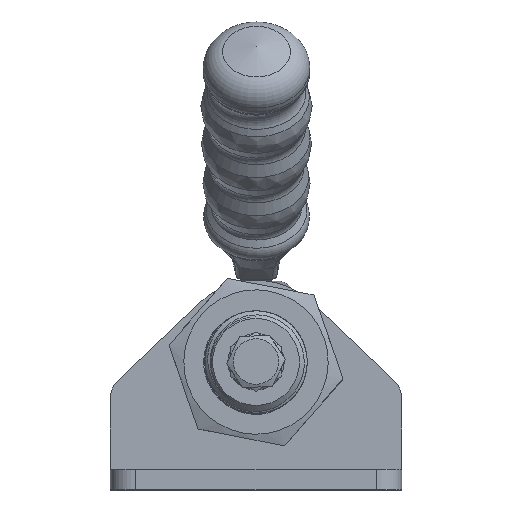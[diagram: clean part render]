
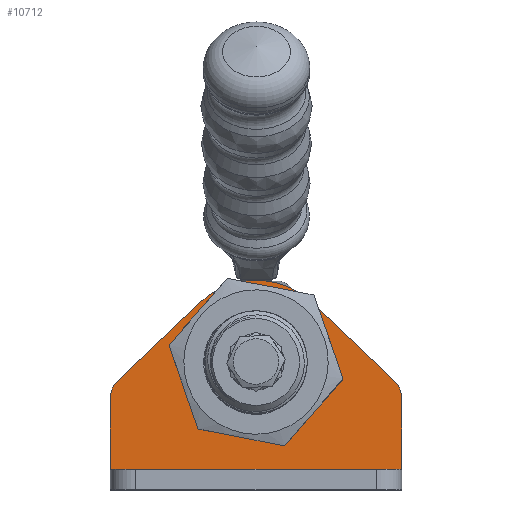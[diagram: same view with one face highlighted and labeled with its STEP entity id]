
A CAD part, top view. The second image highlights one B-rep face of the part: STEP entity #10712.
In plain terms, the highlighted planar face has unit normal (0, 0, 1).
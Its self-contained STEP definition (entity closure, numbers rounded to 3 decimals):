
#418=FACE_BOUND('',#1437,.T.);
#475=PLANE('',#11611);
#810=FACE_OUTER_BOUND('',#1436,.T.);
#1436=EDGE_LOOP('',(#8000,#8001,#8002,#8003,#8004,#8005,#8006,#8007));
#1437=EDGE_LOOP('',(#8008,#8009));
#2040=CIRCLE('',#11600,10.);
#2043=CIRCLE('',#11603,10.);
#2050=CIRCLE('',#11612,5.);
#2051=CIRCLE('',#11613,16.);
#2052=CIRCLE('',#11614,5.);
#2861=LINE('',#19586,#3679);
#2963=LINE('',#21950,#3781);
#2964=LINE('',#21954,#3782);
#2965=LINE('',#21958,#3783);
#2966=LINE('',#21961,#3784);
#3679=VECTOR('',#12522,1000.);
#3781=VECTOR('',#12636,1000.);
#3782=VECTOR('',#12639,1000.);
#3783=VECTOR('',#12642,1000.);
#3784=VECTOR('',#12645,1000.);
#4595=VERTEX_POINT('',#19568);
#4596=VERTEX_POINT('',#19569);
#4602=VERTEX_POINT('',#19583);
#4603=VERTEX_POINT('',#19585);
#4867=VERTEX_POINT('',#21949);
#4868=VERTEX_POINT('',#21951);
#4869=VERTEX_POINT('',#21953);
#4870=VERTEX_POINT('',#21955);
#4871=VERTEX_POINT('',#21957);
#4872=VERTEX_POINT('',#21959);
#5800=EDGE_CURVE('',#4595,#4596,#2040,.T.);
#5804=EDGE_CURVE('',#4596,#4595,#2043,.T.);
#5808=EDGE_CURVE('',#4602,#4603,#2861,.T.);
#6073=EDGE_CURVE('',#4602,#4867,#2963,.T.);
#6074=EDGE_CURVE('',#4867,#4868,#2050,.T.);
#6075=EDGE_CURVE('',#4868,#4869,#2964,.T.);
#6076=EDGE_CURVE('',#4869,#4870,#2051,.T.);
#6077=EDGE_CURVE('',#4870,#4871,#2965,.T.);
#6078=EDGE_CURVE('',#4871,#4872,#2052,.T.);
#6079=EDGE_CURVE('',#4872,#4603,#2966,.T.);
#8000=ORIENTED_EDGE('',*,*,#5808,.F.);
#8001=ORIENTED_EDGE('',*,*,#6073,.T.);
#8002=ORIENTED_EDGE('',*,*,#6074,.T.);
#8003=ORIENTED_EDGE('',*,*,#6075,.T.);
#8004=ORIENTED_EDGE('',*,*,#6076,.T.);
#8005=ORIENTED_EDGE('',*,*,#6077,.T.);
#8006=ORIENTED_EDGE('',*,*,#6078,.T.);
#8007=ORIENTED_EDGE('',*,*,#6079,.T.);
#8008=ORIENTED_EDGE('',*,*,#5800,.F.);
#8009=ORIENTED_EDGE('',*,*,#5804,.F.);
#10712=ADVANCED_FACE('',(#810,#418),#475,.F.);
#11600=AXIS2_PLACEMENT_3D('',#19570,#12507,#12508);
#11603=AXIS2_PLACEMENT_3D('',#19576,#12514,#12515);
#11611=AXIS2_PLACEMENT_3D('',#21948,#12634,#12635);
#11612=AXIS2_PLACEMENT_3D('',#21952,#12637,#12638);
#11613=AXIS2_PLACEMENT_3D('',#21956,#12640,#12641);
#11614=AXIS2_PLACEMENT_3D('',#21960,#12643,#12644);
#12507=DIRECTION('center_axis',(0.,0.,1.));
#12508=DIRECTION('ref_axis',(1.,0.,0.));
#12514=DIRECTION('center_axis',(0.,0.,1.));
#12515=DIRECTION('ref_axis',(1.,0.,0.));
#12522=DIRECTION('',(-1.,0.,0.));
#12634=DIRECTION('center_axis',(0.,0.,-1.));
#12635=DIRECTION('ref_axis',(-1.,0.,0.));
#12636=DIRECTION('',(0.,1.,0.));
#12637=DIRECTION('center_axis',(0.,0.,1.));
#12638=DIRECTION('ref_axis',(-1.,0.,0.));
#12639=DIRECTION('',(-0.725,0.688,0.));
#12640=DIRECTION('center_axis',(0.,0.,1.));
#12641=DIRECTION('ref_axis',(1.,0.,0.));
#12642=DIRECTION('',(-0.725,-0.688,0.));
#12643=DIRECTION('center_axis',(0.,0.,1.));
#12644=DIRECTION('ref_axis',(-1.,0.,0.));
#12645=DIRECTION('',(0.,-1.,0.));
#19568=CARTESIAN_POINT('',(-10.,-26.34,4.));
#19569=CARTESIAN_POINT('',(10.,-26.34,4.));
#19570=CARTESIAN_POINT('Origin',(0.,-26.34,4.));
#19576=CARTESIAN_POINT('Origin',(0.,-26.34,4.));
#19583=CARTESIAN_POINT('',(28.5,-47.34,4.));
#19585=CARTESIAN_POINT('',(-28.5,-47.34,4.));
#19586=CARTESIAN_POINT('',(-28.5,-47.34,4.));
#21948=CARTESIAN_POINT('Origin',(-23.5,-33.476,4.));
#21949=CARTESIAN_POINT('',(28.5,-33.476,4.));
#21950=CARTESIAN_POINT('',(28.5,-51.34,4.));
#21951=CARTESIAN_POINT('',(26.942,-29.849,4.));
#21952=CARTESIAN_POINT('Origin',(23.5,-33.476,4.));
#21953=CARTESIAN_POINT('',(11.014,-14.734,4.));
#21954=CARTESIAN_POINT('',(26.942,-29.849,4.));
#21955=CARTESIAN_POINT('',(-11.014,-14.734,4.));
#21956=CARTESIAN_POINT('Origin',(0.,-26.34,4.));
#21957=CARTESIAN_POINT('',(-26.942,-29.849,4.));
#21958=CARTESIAN_POINT('',(-26.942,-29.849,4.));
#21959=CARTESIAN_POINT('',(-28.5,-33.476,4.));
#21960=CARTESIAN_POINT('Origin',(-23.5,-33.476,4.));
#21961=CARTESIAN_POINT('',(-28.5,-51.34,4.));
